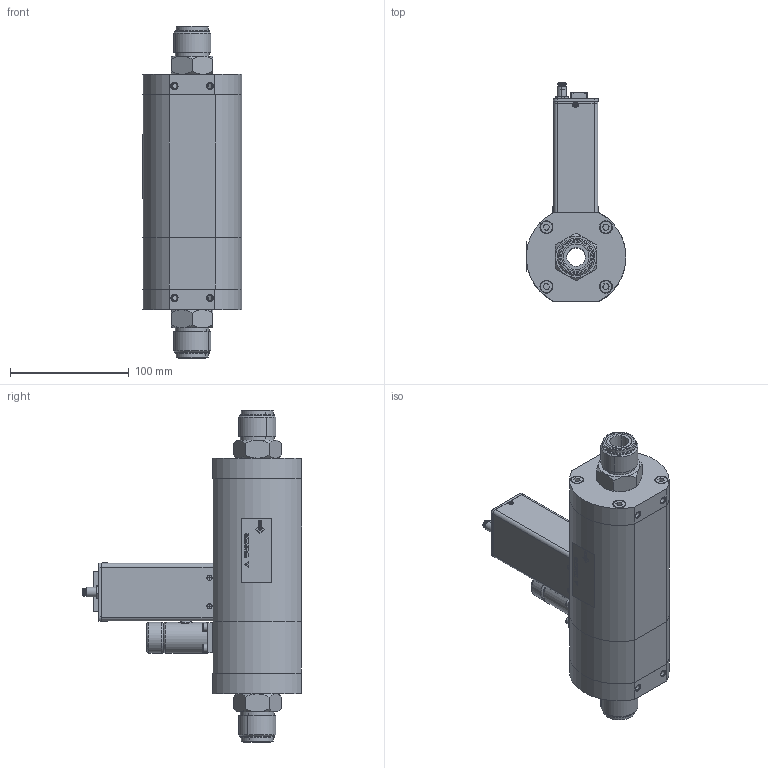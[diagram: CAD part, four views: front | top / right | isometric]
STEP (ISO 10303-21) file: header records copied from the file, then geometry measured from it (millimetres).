
FILE_DESCRIPTION (( 'STEP AP203' ), '1' );
FILE_NAME ('SLA5853-8-2T-2-A-REVB.STEP', '2021-06-30T17:28:17', ( '' ), ( '' ), 'SwSTEP 2.0', 'SolidWorks 2020', '' );
FILE_SCHEMA (( 'CONFIG_CONTROL_DESIGN' ));
Products named in the file (1): SLA5853-8-2T-2-A-REVB
Bounding box: 84.02 x 184.93 x 280.08 mm (x, y, z)
Volume: 558825.5 mm3; surface area: 222423.4 mm2
Topology: 74 solids, 74 shells, 2507 faces, 6403 edges, 4124 vertices
Faces by surface type: plane 1517, cylinder 553, cone 284, bspline 153
Entity records: 85535 total; most frequent: CARTESIAN_POINT 24969, ORIENTED_EDGE 12730, DIRECTION 12125, EDGE_CURVE 6365, VECTOR 4445, LINE 4445, VERTEX_POINT 4124, AXIS2_PLACEMENT_3D 3840
